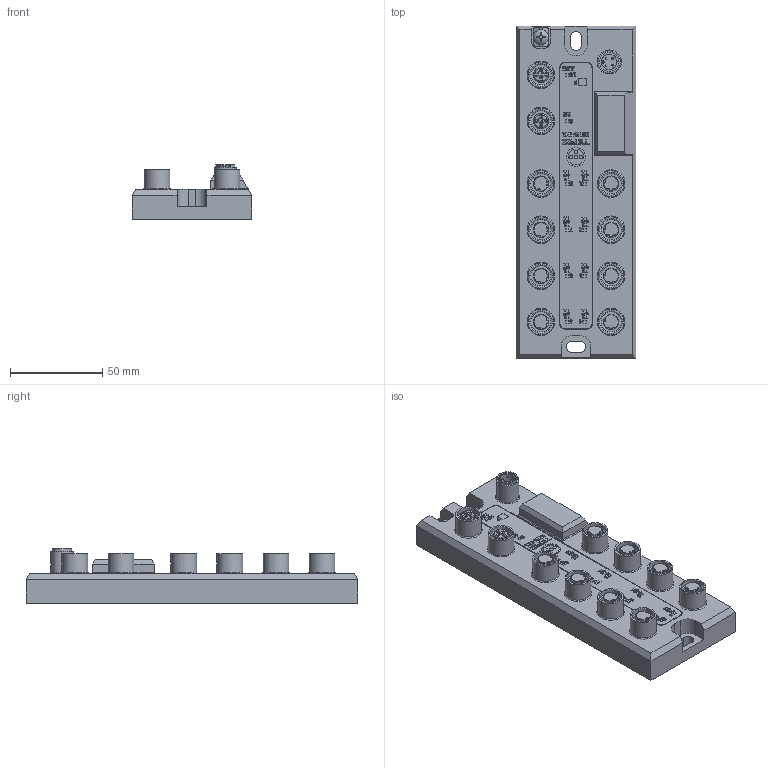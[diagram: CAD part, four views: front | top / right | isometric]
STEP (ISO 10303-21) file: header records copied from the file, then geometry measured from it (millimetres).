
FILE_DESCRIPTION(('TFLEX Exchange Step'),'2;1');
FILE_NAME('TZCA4317200A_NITE-TX1XS82-3100.stp', '2024-04-07T10:20:22+02:00',('User'),('Unknown organisation'),'TFLEX Exchange 2023.2','T-FLEX CAD','Unknown authorisation');
FILE_SCHEMA( ('AUTOMOTIVE_DESIGN { 1 0 10303 214 1 1 1 1 }') );
Length unit declared in the file: millimetre
Products named in the file (3): 3DP_ABSNULL; 0; TZCA02107A_NITE-TX1XS82-3100
Assembly tree (2 placements, depth 3):
  TZCA02107A_NITE-TX1XS82-3100
    0
      3DP_ABSNULL
Bounding box: 65 x 180 x 29.6 mm (x, y, z)
Volume: 200333.8 mm3; surface area: 45093.2 mm2
Topology: 1 solids, 1 shells, 1718 faces, 4526 edges, 2940 vertices
Faces by surface type: plane 775, bspline 467, cylinder 279, torus 140, cone 43, sphere 9, extrusion 5
Full cylindrical faces by diameter (mm): 1 x4, 4 x2, 4.3 x1, 8 x1, 8.2 x10, 8.4 x5, 8.5 x1, 10.4 x1, 11 x10, 12 x1, 12.2 x10, 12.35 x10, 14 x10
Entity records: 59844 total; most frequent: CARTESIAN_POINT 19161, ORIENTED_EDGE 9036, DIRECTION 7021, EDGE_CURVE 4518, VERTEX_POINT 2939, VECTOR 2593, LINE 2588, AXIS2_PLACEMENT_3D 2214
